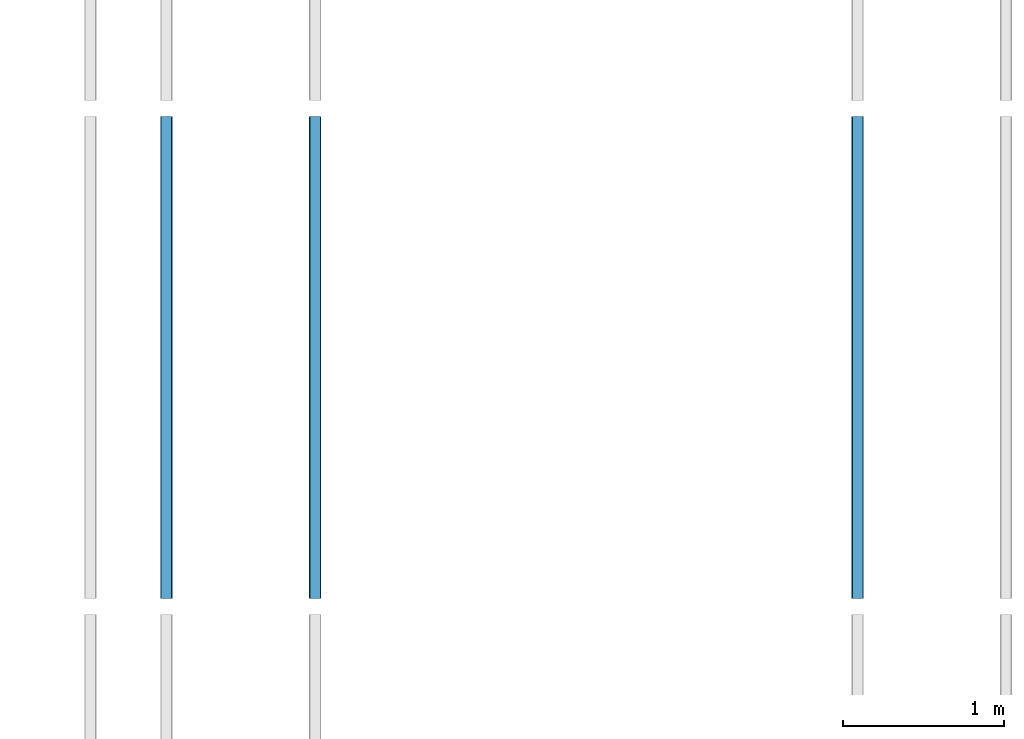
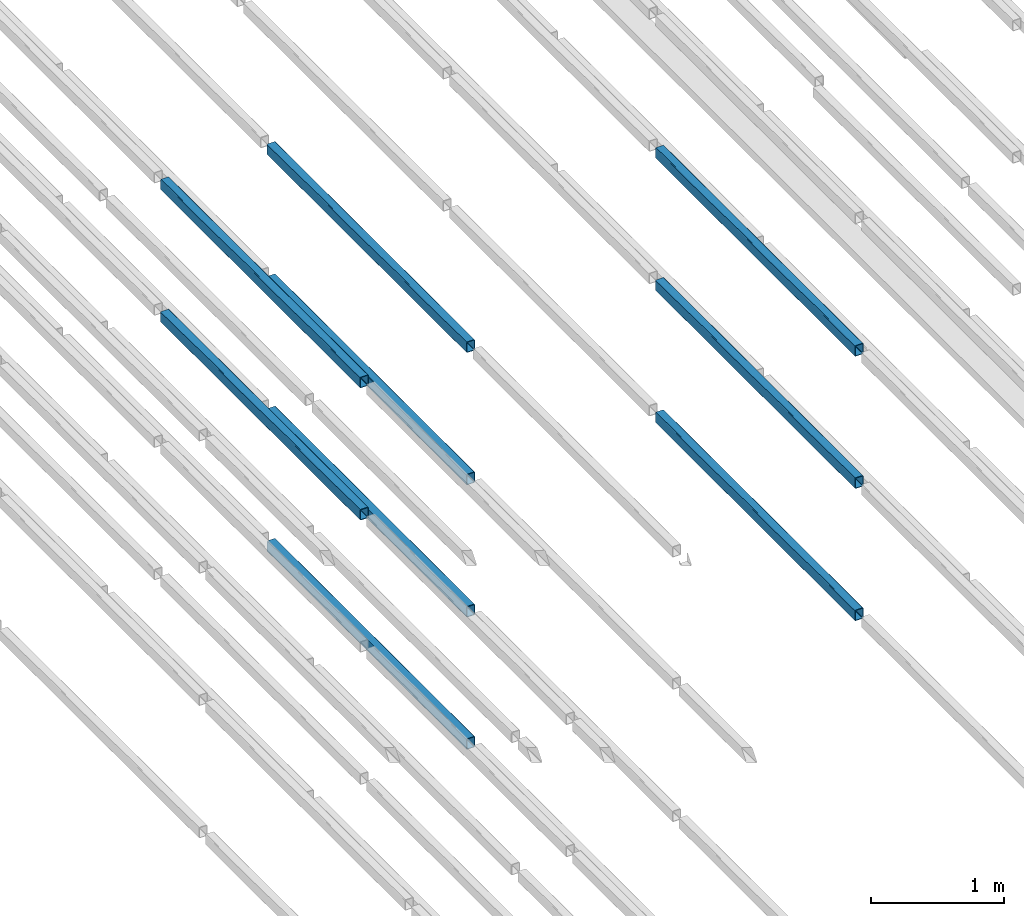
# One storey, part 87 of 290: 9 beams.
"""IFC2X3 building model written with IfcOpenShell, lengths in metres."""

from ifc_helpers import new_model, entity, si_unit, converted_unit, derived_unit, direction, frame, frame_2d, origin, place, context, subcontext, project, spatial, polyline, circle_curve, parameter, trimmed, segment, composite_curve, outline, extrude, material, type_object, element, save


model = new_model("IFC2X3")

# Units and contexts
model_context = context("Model", 3, precision=1e-05, world=origin(), true_north=direction((6.12303176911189e-17, 1.0)))
body_context = subcontext(model_context, "Body", "Model", "MODEL_VIEW")
ifc_project = project(units=[si_unit("LENGTHUNIT", "METRE"), si_unit("AREAUNIT", "SQUARE_METRE"), si_unit("VOLUMEUNIT", "CUBIC_METRE"), converted_unit("PLANEANGLEUNIT", "DEGREE", entity("IfcRatioMeasure", 0.0174532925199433), si_unit("PLANEANGLEUNIT", "RADIAN"), dimensions=[0, 0, 0, 0, 0, 0, 0]), si_unit("MASSUNIT", "GRAM", prefix="KILO"), derived_unit("MASSDENSITYUNIT", [(si_unit("MASSUNIT", "GRAM", prefix="KILO"), 1), (si_unit("LENGTHUNIT", "METRE"), -3)]), derived_unit("MOMENTOFINERTIAUNIT", [(si_unit("LENGTHUNIT", "METRE"), 4)]), si_unit("TIMEUNIT", "SECOND"), si_unit("FREQUENCYUNIT", "HERTZ"), si_unit("THERMODYNAMICTEMPERATUREUNIT", "DEGREE_CELSIUS"), derived_unit("THERMALTRANSMITTANCEUNIT", [(si_unit("MASSUNIT", "GRAM", prefix="KILO"), 1), (si_unit("THERMODYNAMICTEMPERATUREUNIT", "KELVIN"), -1), (si_unit("TIMEUNIT", "SECOND"), -3)]), derived_unit("VOLUMETRICFLOWRATEUNIT", [(si_unit("LENGTHUNIT", "METRE"), 3), (si_unit("TIMEUNIT", "SECOND"), -1)]), si_unit("ELECTRICCURRENTUNIT", "AMPERE"), si_unit("ELECTRICVOLTAGEUNIT", "VOLT"), si_unit("POWERUNIT", "WATT"), si_unit("FORCEUNIT", "NEWTON", prefix="KILO"), si_unit("ILLUMINANCEUNIT", "LUX"), si_unit("LUMINOUSFLUXUNIT", "LUMEN"), si_unit("LUMINOUSINTENSITYUNIT", "CANDELA"), derived_unit("USERDEFINED", [(si_unit("MASSUNIT", "GRAM", prefix="KILO"), -1), (si_unit("LENGTHUNIT", "METRE"), -2), (si_unit("TIMEUNIT", "SECOND"), 3), (si_unit("LUMINOUSFLUXUNIT", "LUMEN"), 1)]), derived_unit("LINEARVELOCITYUNIT", [(si_unit("LENGTHUNIT", "METRE"), 1), (si_unit("TIMEUNIT", "SECOND"), -1)]), si_unit("PRESSUREUNIT", "PASCAL"), derived_unit("USERDEFINED", [(si_unit("LENGTHUNIT", "METRE"), -2), (si_unit("MASSUNIT", "GRAM", prefix="KILO"), 1), (si_unit("TIMEUNIT", "SECOND"), -2)]), derived_unit("LINEARFORCEUNIT", [(si_unit("MASSUNIT", "GRAM", prefix="KILO"), 1), (si_unit("LENGTHUNIT", "METRE"), 1), (si_unit("TIMEUNIT", "SECOND"), -2), (si_unit("LENGTHUNIT", "METRE"), -1)]), derived_unit("PLANARFORCEUNIT", [(si_unit("MASSUNIT", "GRAM", prefix="KILO"), 1), (si_unit("LENGTHUNIT", "METRE"), 1), (si_unit("TIMEUNIT", "SECOND"), -2), (si_unit("LENGTHUNIT", "METRE"), -2)])], contexts=[model_context])

# Site, building, storey
site_placement = place(None, origin())
site = spatial("IfcSite", under=ifc_project, at=site_placement, Name="Default", CompositionType="ELEMENT")
building_placement = place(site_placement, origin())
building = spatial("IfcBuilding", under=site, at=building_placement, CompositionType="ELEMENT")
storey_placement = place(building_placement, frame((0.0, 0.0, 4.0)))
storey = spatial("IfcBuildingStorey", under=building, at=storey_placement, Name="01_OG", CompositionType="ELEMENT", Elevation=4.0)

# Beams
ifc_material = material(Name="Metall - Baustahl S235 blau")
beam_type = type_object("IfcBeamType", Name="RHS Träger (EN 10219-2):RHS 100 x 75 x 5", PredefinedType="NOTDEFINED")
beam_1_placement = place(storey_placement, frame((-183.615111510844, 42.648088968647, 1.23), z_axis=(0.0, 0.0, 1.0), x_axis=(0.0, 1.0, 0.0)))
element("IfcBeam", 1, at=beam_1_placement, inside=storey, type_object=beam_type, material=ifc_material, Name="RHS Träger (EN 10219-2):RHS 100 x 75 x 5", ObjectType="RHS Träger (EN 10219-2):RHS 100 x 75 x 5", context=body_context, shape_type="SweptSolid", body=[
    extrude(outline(composite_curve([segment(trimmed(circle_curve(frame_2d((-0.0274999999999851, -0.0399999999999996), x_axis=(1.0, 0.0)), 0.01), [parameter(180.0)], [parameter(270.0)], True, "PARAMETER"), True, "CONTINUOUS"), segment(polyline([(-0.0274999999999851, -0.0499999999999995), (0.0274999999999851, -0.0499999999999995)]), True, "CONTINUOUS"), segment(trimmed(circle_curve(frame_2d((0.0274999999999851, -0.0399999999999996), x_axis=(1.0, 0.0)), 0.01), [parameter(270.0)], [parameter(5.08888749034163e-14)], True, "PARAMETER"), True, "CONTINUOUS"), segment(polyline([(0.0375000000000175, -0.0399999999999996), (0.0375000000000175, 0.0399999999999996)]), True, "CONTINUOUS"), segment(trimmed(circle_curve(frame_2d((0.0274999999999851, 0.0399999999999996), x_axis=(1.0, 0.0)), 0.01), [parameter(360.0)], [parameter(89.9999999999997)], True, "PARAMETER"), True, "CONTINUOUS"), segment(polyline([(0.0274999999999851, 0.0500000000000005), (-0.0274999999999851, 0.0500000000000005)]), True, "CONTINUOUS"), segment(trimmed(circle_curve(frame_2d((-0.0274999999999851, 0.0399999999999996), x_axis=(1.0, 0.0)), 0.01), [parameter(90.0000000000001)], [parameter(180.0)], True, "PARAMETER"), True, "CONTINUOUS"), segment(polyline([(-0.0374999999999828, 0.0399999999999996), (-0.0374999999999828, -0.0399999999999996)]), True, "CONTINUOUS")], self_intersect=False), holes=[composite_curve([segment(polyline([(0.0274999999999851, -0.0450000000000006), (-0.0274999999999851, -0.0450000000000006)]), True, "CONTINUOUS"), segment(trimmed(circle_curve(frame_2d((-0.0274999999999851, -0.0400000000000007), x_axis=(1.0, 0.0)), 0.005), [parameter(180.0)], [parameter(270.0)], True, "PARAMETER"), False, "CONTINUOUS"), segment(polyline([(-0.0325000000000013, -0.0400000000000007), (-0.0325000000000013, 0.0399999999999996)]), True, "CONTINUOUS"), segment(trimmed(circle_curve(frame_2d((-0.0274999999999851, 0.0399999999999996), x_axis=(1.0, 0.0)), 0.005), [parameter(90.0000000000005)], [parameter(180.0)], True, "PARAMETER"), False, "CONTINUOUS"), segment(polyline([(-0.0274999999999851, 0.0449999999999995), (0.0274999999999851, 0.0449999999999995)]), True, "CONTINUOUS"), segment(trimmed(circle_curve(frame_2d((0.0274999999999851, 0.0399999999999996), x_axis=(1.0, 0.0)), 0.005), [parameter(0.0)], [parameter(90.0000000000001)], True, "PARAMETER"), False, "CONTINUOUS"), segment(polyline([(0.0325000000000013, 0.0399999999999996), (0.0325000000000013, -0.0400000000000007)]), True, "CONTINUOUS"), segment(trimmed(circle_curve(frame_2d((0.0274999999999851, -0.0400000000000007), x_axis=(1.0, 0.0)), 0.005), [parameter(270.0)], [parameter(4.07110999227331e-13)], True, "PARAMETER"), False, "CONTINUOUS")], self_intersect=False)]), frame((9.99999999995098e-05, 0.0375000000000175, -0.0500000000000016), z_axis=(1.0, 0.0, 0.0), x_axis=(0.0, -1.0, 0.0)), (0.0, 0.0, 1.0), 2.99979999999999),
])
beam_2_placement = place(storey_placement, frame((-183.615111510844, 42.648088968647, 2.445), z_axis=(0.0, 0.0, 1.0), x_axis=(0.0, 1.0, 0.0)))
element("IfcBeam", 2, at=beam_2_placement, inside=storey, type_object=beam_type, material=ifc_material, Name="RHS Träger (EN 10219-2):RHS 100 x 75 x 5", ObjectType="RHS Träger (EN 10219-2):RHS 100 x 75 x 5", context=body_context, shape_type="SweptSolid", body=[
    extrude(outline(composite_curve([segment(trimmed(circle_curve(frame_2d((-0.0274999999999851, -0.0399999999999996), x_axis=(1.0, 0.0)), 0.01), [parameter(180.0)], [parameter(270.0)], True, "PARAMETER"), True, "CONTINUOUS"), segment(polyline([(-0.0274999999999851, -0.0499999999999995), (0.0274999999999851, -0.0499999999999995)]), True, "CONTINUOUS"), segment(trimmed(circle_curve(frame_2d((0.0274999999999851, -0.0399999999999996), x_axis=(1.0, 0.0)), 0.01), [parameter(270.0)], [parameter(5.08888749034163e-14)], True, "PARAMETER"), True, "CONTINUOUS"), segment(polyline([(0.0375000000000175, -0.0399999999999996), (0.0375000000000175, 0.0399999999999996)]), True, "CONTINUOUS"), segment(trimmed(circle_curve(frame_2d((0.0274999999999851, 0.0399999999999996), x_axis=(1.0, 0.0)), 0.01), [parameter(360.0)], [parameter(89.9999999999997)], True, "PARAMETER"), True, "CONTINUOUS"), segment(polyline([(0.0274999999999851, 0.0500000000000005), (-0.0274999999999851, 0.0500000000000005)]), True, "CONTINUOUS"), segment(trimmed(circle_curve(frame_2d((-0.0274999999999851, 0.0399999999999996), x_axis=(1.0, 0.0)), 0.01), [parameter(90.0000000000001)], [parameter(180.0)], True, "PARAMETER"), True, "CONTINUOUS"), segment(polyline([(-0.0374999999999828, 0.0399999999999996), (-0.0374999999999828, -0.0399999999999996)]), True, "CONTINUOUS")], self_intersect=False), holes=[composite_curve([segment(polyline([(0.0274999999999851, -0.0450000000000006), (-0.0274999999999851, -0.0450000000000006)]), True, "CONTINUOUS"), segment(trimmed(circle_curve(frame_2d((-0.0274999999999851, -0.0400000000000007), x_axis=(1.0, 0.0)), 0.005), [parameter(180.0)], [parameter(270.0)], True, "PARAMETER"), False, "CONTINUOUS"), segment(polyline([(-0.0325000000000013, -0.0400000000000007), (-0.0325000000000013, 0.0399999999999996)]), True, "CONTINUOUS"), segment(trimmed(circle_curve(frame_2d((-0.0274999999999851, 0.0399999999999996), x_axis=(1.0, 0.0)), 0.005), [parameter(90.0000000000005)], [parameter(180.0)], True, "PARAMETER"), False, "CONTINUOUS"), segment(polyline([(-0.0274999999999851, 0.0449999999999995), (0.0274999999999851, 0.0449999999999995)]), True, "CONTINUOUS"), segment(trimmed(circle_curve(frame_2d((0.0274999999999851, 0.0399999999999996), x_axis=(1.0, 0.0)), 0.005), [parameter(0.0)], [parameter(90.0000000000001)], True, "PARAMETER"), False, "CONTINUOUS"), segment(polyline([(0.0325000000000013, 0.0399999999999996), (0.0325000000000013, -0.0400000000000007)]), True, "CONTINUOUS"), segment(trimmed(circle_curve(frame_2d((0.0274999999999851, -0.0400000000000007), x_axis=(1.0, 0.0)), 0.005), [parameter(270.0)], [parameter(4.07110999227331e-13)], True, "PARAMETER"), False, "CONTINUOUS")], self_intersect=False)]), frame((9.99999999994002e-05, 0.0375000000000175, -0.0500000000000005), z_axis=(1.0, 0.0, 0.0), x_axis=(0.0, -1.0, 0.0)), (0.0, 0.0, 1.0), 2.99979999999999),
])
beam_3_placement = place(storey_placement, frame((-182.765111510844, 42.648088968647, -1.2), z_axis=(0.0, 0.0, 1.0), x_axis=(0.0, 1.0, 0.0)))
element("IfcBeam", 3, at=beam_3_placement, inside=storey, type_object=beam_type, material=ifc_material, Name="RHS Träger (EN 10219-2):RHS 100 x 75 x 5", ObjectType="RHS Träger (EN 10219-2):RHS 100 x 75 x 5", context=body_context, shape_type="SweptSolid", body=[
    extrude(outline(composite_curve([segment(polyline([(-0.0400000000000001, -0.0374999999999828), (0.0400000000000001, -0.0374999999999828)]), True, "CONTINUOUS"), segment(trimmed(circle_curve(frame_2d((0.0400000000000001, -0.0274999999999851), x_axis=(0.0, 1.0)), 0.01), [parameter(180.0)], [parameter(270.0)], True, "PARAMETER"), True, "CONTINUOUS"), segment(polyline([(0.05, -0.0274999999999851), (0.05, 0.0274999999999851)]), True, "CONTINUOUS"), segment(trimmed(circle_curve(frame_2d((0.0400000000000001, 0.0274999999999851), x_axis=(0.0, 1.0)), 0.01), [parameter(270.0)], [parameter(4.07110999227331e-13)], True, "PARAMETER"), True, "CONTINUOUS"), segment(polyline([(0.0400000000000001, 0.0375000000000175), (-0.0400000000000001, 0.0375000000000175)]), True, "CONTINUOUS"), segment(trimmed(circle_curve(frame_2d((-0.0400000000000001, 0.0274999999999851), x_axis=(0.0, 1.0)), 0.01), [parameter(360.0)], [parameter(90.0000000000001)], True, "PARAMETER"), True, "CONTINUOUS"), segment(polyline([(-0.05, 0.0274999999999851), (-0.05, -0.0274999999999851)]), True, "CONTINUOUS"), segment(trimmed(circle_curve(frame_2d((-0.0400000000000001, -0.0274999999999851), x_axis=(0.0, 1.0)), 0.01), [parameter(90.0000000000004)], [parameter(180.0)], True, "PARAMETER"), True, "CONTINUOUS")], self_intersect=False), holes=[composite_curve([segment(trimmed(circle_curve(frame_2d((-0.0400000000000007, 0.0274999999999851), x_axis=(0.0, 1.0)), 0.005), [parameter(360.0)], [parameter(89.9999999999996)], True, "PARAMETER"), False, "CONTINUOUS"), segment(polyline([(-0.0400000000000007, 0.0325000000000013), (0.039999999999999, 0.0325000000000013)]), True, "CONTINUOUS"), segment(trimmed(circle_curve(frame_2d((0.039999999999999, 0.0274999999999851), x_axis=(0.0, 1.0)), 0.005), [parameter(270.0)], [parameter(0.0)], True, "PARAMETER"), False, "CONTINUOUS"), segment(polyline([(0.044999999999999, 0.0274999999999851), (0.044999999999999, -0.0274999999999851)]), True, "CONTINUOUS"), segment(trimmed(circle_curve(frame_2d((0.039999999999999, -0.0274999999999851), x_axis=(0.0, 1.0)), 0.005), [parameter(180.0)], [parameter(269.999999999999)], True, "PARAMETER"), False, "CONTINUOUS"), segment(polyline([(0.039999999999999, -0.0325000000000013), (-0.0400000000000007, -0.0325000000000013)]), True, "CONTINUOUS"), segment(trimmed(circle_curve(frame_2d((-0.0400000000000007, -0.0274999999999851), x_axis=(0.0, 1.0)), 0.005), [parameter(90.0000000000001)], [parameter(180.0)], True, "PARAMETER"), False, "CONTINUOUS"), segment(polyline([(-0.0450000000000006, -0.0274999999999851), (-0.0450000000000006, 0.0274999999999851)]), True, "CONTINUOUS")], self_intersect=False)]), frame((9.99999999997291e-05, -0.0375000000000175, -0.0500000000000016), z_axis=(1.0, 0.0, 0.0), x_axis=(0.0, 0.0, -1.0)), (0.0, 0.0, 1.0), 2.99979999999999),
])
beam_4_placement = place(storey_placement, frame((-182.765111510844, 42.648088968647, 0.0150000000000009), z_axis=(0.0, 0.0, 1.0), x_axis=(0.0, 1.0, 0.0)))
element("IfcBeam", 4, at=beam_4_placement, inside=storey, type_object=beam_type, material=ifc_material, Name="RHS Träger (EN 10219-2):RHS 100 x 75 x 5", ObjectType="RHS Träger (EN 10219-2):RHS 100 x 75 x 5", context=body_context, shape_type="SweptSolid", body=[
    extrude(outline(composite_curve([segment(polyline([(-0.0400000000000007, -0.0374999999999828), (0.0399999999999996, -0.0374999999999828)]), True, "CONTINUOUS"), segment(trimmed(circle_curve(frame_2d((0.0399999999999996, -0.0274999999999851), x_axis=(0.0, 1.0)), 0.01), [parameter(180.0)], [parameter(270.0)], True, "PARAMETER"), True, "CONTINUOUS"), segment(polyline([(0.0499999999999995, -0.0274999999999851), (0.0499999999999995, 0.0274999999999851)]), True, "CONTINUOUS"), segment(trimmed(circle_curve(frame_2d((0.0399999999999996, 0.0274999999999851), x_axis=(0.0, 1.0)), 0.01), [parameter(270.0)], [parameter(4.07110999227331e-13)], True, "PARAMETER"), True, "CONTINUOUS"), segment(polyline([(0.0399999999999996, 0.0375000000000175), (-0.0400000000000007, 0.0375000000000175)]), True, "CONTINUOUS"), segment(trimmed(circle_curve(frame_2d((-0.0400000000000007, 0.0274999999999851), x_axis=(0.0, 1.0)), 0.01), [parameter(360.0)], [parameter(90.0000000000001)], True, "PARAMETER"), True, "CONTINUOUS"), segment(polyline([(-0.0500000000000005, 0.0274999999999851), (-0.0500000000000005, -0.0274999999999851)]), True, "CONTINUOUS"), segment(trimmed(circle_curve(frame_2d((-0.0400000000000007, -0.0274999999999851), x_axis=(0.0, 1.0)), 0.01), [parameter(90.0000000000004)], [parameter(180.0)], True, "PARAMETER"), True, "CONTINUOUS")], self_intersect=False), holes=[composite_curve([segment(trimmed(circle_curve(frame_2d((-0.0400000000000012, 0.0274999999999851), x_axis=(0.0, 1.0)), 0.005), [parameter(360.0)], [parameter(89.9999999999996)], True, "PARAMETER"), False, "CONTINUOUS"), segment(polyline([(-0.0400000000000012, 0.0325000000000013), (0.0399999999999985, 0.0325000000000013)]), True, "CONTINUOUS"), segment(trimmed(circle_curve(frame_2d((0.0399999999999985, 0.0274999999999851), x_axis=(0.0, 1.0)), 0.005), [parameter(270.0)], [parameter(0.0)], True, "PARAMETER"), False, "CONTINUOUS"), segment(polyline([(0.0449999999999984, 0.0274999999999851), (0.0449999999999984, -0.0274999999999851)]), True, "CONTINUOUS"), segment(trimmed(circle_curve(frame_2d((0.0399999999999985, -0.0274999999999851), x_axis=(0.0, 1.0)), 0.005), [parameter(180.0)], [parameter(269.999999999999)], True, "PARAMETER"), False, "CONTINUOUS"), segment(polyline([(0.0399999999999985, -0.0325000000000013), (-0.0400000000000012, -0.0325000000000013)]), True, "CONTINUOUS"), segment(trimmed(circle_curve(frame_2d((-0.0400000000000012, -0.0274999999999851), x_axis=(0.0, 1.0)), 0.005), [parameter(90.0000000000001)], [parameter(180.0)], True, "PARAMETER"), False, "CONTINUOUS"), segment(polyline([(-0.0450000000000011, -0.0274999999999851), (-0.0450000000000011, 0.0274999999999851)]), True, "CONTINUOUS")], self_intersect=False)]), frame((9.99999999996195e-05, -0.0375000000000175, -0.0500000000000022), z_axis=(1.0, 0.0, 0.0), x_axis=(0.0, 0.0, -1.0)), (0.0, 0.0, 1.0), 2.99979999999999),
])
beam_5_placement = place(storey_placement, frame((-182.765111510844, 42.648088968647, 1.23), z_axis=(0.0, 0.0, 1.0), x_axis=(0.0, 1.0, 0.0)))
element("IfcBeam", 5, at=beam_5_placement, inside=storey, type_object=beam_type, material=ifc_material, Name="RHS Träger (EN 10219-2):RHS 100 x 75 x 5", ObjectType="RHS Träger (EN 10219-2):RHS 100 x 75 x 5", context=body_context, shape_type="SweptSolid", body=[
    extrude(outline(composite_curve([segment(polyline([(-0.0399999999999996, -0.0374999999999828), (0.0399999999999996, -0.0374999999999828)]), True, "CONTINUOUS"), segment(trimmed(circle_curve(frame_2d((0.0399999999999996, -0.0274999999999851), x_axis=(0.0, 1.0)), 0.01), [parameter(180.0)], [parameter(270.0)], True, "PARAMETER"), True, "CONTINUOUS"), segment(polyline([(0.0500000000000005, -0.0274999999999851), (0.0500000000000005, 0.0274999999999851)]), True, "CONTINUOUS"), segment(trimmed(circle_curve(frame_2d((0.0399999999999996, 0.0274999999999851), x_axis=(0.0, 1.0)), 0.01), [parameter(270.0)], [parameter(4.07110999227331e-13)], True, "PARAMETER"), True, "CONTINUOUS"), segment(polyline([(0.0399999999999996, 0.0375000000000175), (-0.0399999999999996, 0.0375000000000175)]), True, "CONTINUOUS"), segment(trimmed(circle_curve(frame_2d((-0.0399999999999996, 0.0274999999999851), x_axis=(0.0, 1.0)), 0.01), [parameter(360.0)], [parameter(90.0000000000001)], True, "PARAMETER"), True, "CONTINUOUS"), segment(polyline([(-0.0499999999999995, 0.0274999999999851), (-0.0499999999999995, -0.0274999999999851)]), True, "CONTINUOUS"), segment(trimmed(circle_curve(frame_2d((-0.0399999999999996, -0.0274999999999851), x_axis=(0.0, 1.0)), 0.01), [parameter(90.0000000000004)], [parameter(180.0)], True, "PARAMETER"), True, "CONTINUOUS")], self_intersect=False), holes=[composite_curve([segment(trimmed(circle_curve(frame_2d((-0.0400000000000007, 0.0274999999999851), x_axis=(0.0, 1.0)), 0.005), [parameter(360.0)], [parameter(89.9999999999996)], True, "PARAMETER"), False, "CONTINUOUS"), segment(polyline([(-0.0400000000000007, 0.0325000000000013), (0.0399999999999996, 0.0325000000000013)]), True, "CONTINUOUS"), segment(trimmed(circle_curve(frame_2d((0.0399999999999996, 0.0274999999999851), x_axis=(0.0, 1.0)), 0.005), [parameter(270.0)], [parameter(0.0)], True, "PARAMETER"), False, "CONTINUOUS"), segment(polyline([(0.0449999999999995, 0.0274999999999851), (0.0449999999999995, -0.0274999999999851)]), True, "CONTINUOUS"), segment(trimmed(circle_curve(frame_2d((0.0399999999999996, -0.0274999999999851), x_axis=(0.0, 1.0)), 0.005), [parameter(180.0)], [parameter(269.999999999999)], True, "PARAMETER"), False, "CONTINUOUS"), segment(polyline([(0.0399999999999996, -0.0325000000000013), (-0.0400000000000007, -0.0325000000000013)]), True, "CONTINUOUS"), segment(trimmed(circle_curve(frame_2d((-0.0400000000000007, -0.0274999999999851), x_axis=(0.0, 1.0)), 0.005), [parameter(90.0000000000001)], [parameter(180.0)], True, "PARAMETER"), False, "CONTINUOUS"), segment(polyline([(-0.0450000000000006, -0.0274999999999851), (-0.0450000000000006, 0.0274999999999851)]), True, "CONTINUOUS")], self_intersect=False)]), frame((9.99999999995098e-05, -0.0375000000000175, -0.0500000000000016), z_axis=(1.0, 0.0, 0.0), x_axis=(0.0, 0.0, -1.0)), (0.0, 0.0, 1.0), 2.99979999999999),
])
beam_6_placement = place(storey_placement, frame((-182.765111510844, 42.648088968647, 2.445), z_axis=(0.0, 0.0, 1.0), x_axis=(0.0, 1.0, 0.0)))
element("IfcBeam", 6, at=beam_6_placement, inside=storey, type_object=beam_type, material=ifc_material, Name="RHS Träger (EN 10219-2):RHS 100 x 75 x 5", ObjectType="RHS Träger (EN 10219-2):RHS 100 x 75 x 5", context=body_context, shape_type="SweptSolid", body=[
    extrude(outline(composite_curve([segment(polyline([(-0.0399999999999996, -0.0374999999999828), (0.0399999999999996, -0.0374999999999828)]), True, "CONTINUOUS"), segment(trimmed(circle_curve(frame_2d((0.0399999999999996, -0.0274999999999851), x_axis=(0.0, 1.0)), 0.01), [parameter(180.0)], [parameter(270.0)], True, "PARAMETER"), True, "CONTINUOUS"), segment(polyline([(0.0500000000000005, -0.0274999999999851), (0.0500000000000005, 0.0274999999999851)]), True, "CONTINUOUS"), segment(trimmed(circle_curve(frame_2d((0.0399999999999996, 0.0274999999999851), x_axis=(0.0, 1.0)), 0.01), [parameter(270.0)], [parameter(4.07110999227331e-13)], True, "PARAMETER"), True, "CONTINUOUS"), segment(polyline([(0.0399999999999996, 0.0375000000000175), (-0.0399999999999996, 0.0375000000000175)]), True, "CONTINUOUS"), segment(trimmed(circle_curve(frame_2d((-0.0399999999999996, 0.0274999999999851), x_axis=(0.0, 1.0)), 0.01), [parameter(360.0)], [parameter(90.0000000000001)], True, "PARAMETER"), True, "CONTINUOUS"), segment(polyline([(-0.0499999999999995, 0.0274999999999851), (-0.0499999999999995, -0.0274999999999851)]), True, "CONTINUOUS"), segment(trimmed(circle_curve(frame_2d((-0.0399999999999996, -0.0274999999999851), x_axis=(0.0, 1.0)), 0.01), [parameter(90.0000000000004)], [parameter(180.0)], True, "PARAMETER"), True, "CONTINUOUS")], self_intersect=False), holes=[composite_curve([segment(trimmed(circle_curve(frame_2d((-0.0400000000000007, 0.0274999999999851), x_axis=(0.0, 1.0)), 0.005), [parameter(360.0)], [parameter(89.9999999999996)], True, "PARAMETER"), False, "CONTINUOUS"), segment(polyline([(-0.0400000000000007, 0.0325000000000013), (0.0399999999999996, 0.0325000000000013)]), True, "CONTINUOUS"), segment(trimmed(circle_curve(frame_2d((0.0399999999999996, 0.0274999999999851), x_axis=(0.0, 1.0)), 0.005), [parameter(270.0)], [parameter(0.0)], True, "PARAMETER"), False, "CONTINUOUS"), segment(polyline([(0.0449999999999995, 0.0274999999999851), (0.0449999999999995, -0.0274999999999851)]), True, "CONTINUOUS"), segment(trimmed(circle_curve(frame_2d((0.0399999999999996, -0.0274999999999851), x_axis=(0.0, 1.0)), 0.005), [parameter(180.0)], [parameter(269.999999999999)], True, "PARAMETER"), False, "CONTINUOUS"), segment(polyline([(0.0399999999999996, -0.0325000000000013), (-0.0400000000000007, -0.0325000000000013)]), True, "CONTINUOUS"), segment(trimmed(circle_curve(frame_2d((-0.0400000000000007, -0.0274999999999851), x_axis=(0.0, 1.0)), 0.005), [parameter(90.0000000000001)], [parameter(180.0)], True, "PARAMETER"), False, "CONTINUOUS"), segment(polyline([(-0.0450000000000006, -0.0274999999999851), (-0.0450000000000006, 0.0274999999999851)]), True, "CONTINUOUS")], self_intersect=False)]), frame((9.99999999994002e-05, -0.0375000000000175, -0.0500000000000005), z_axis=(1.0, 0.0, 0.0), x_axis=(0.0, 0.0, -1.0)), (0.0, 0.0, 1.0), 2.99979999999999),
])
beam_7_placement = place(storey_placement, frame((-179.315111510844, 42.6480889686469, -1.2), z_axis=(0.0, 0.0, 1.0), x_axis=(0.0, 1.0, 0.0)))
element("IfcBeam", 7, at=beam_7_placement, inside=storey, type_object=beam_type, material=ifc_material, Name="RHS Träger (EN 10219-2):RHS 100 x 75 x 5", ObjectType="RHS Träger (EN 10219-2):RHS 100 x 75 x 5", context=body_context, shape_type="SweptSolid", body=[
    extrude(outline(composite_curve([segment(trimmed(circle_curve(frame_2d((-0.0274999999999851, -0.0400000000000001), x_axis=(1.0, 0.0)), 0.01), [parameter(180.0)], [parameter(270.0)], True, "PARAMETER"), True, "CONTINUOUS"), segment(polyline([(-0.0274999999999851, -0.05), (0.0274999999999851, -0.05)]), True, "CONTINUOUS"), segment(trimmed(circle_curve(frame_2d((0.0274999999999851, -0.0400000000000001), x_axis=(1.0, 0.0)), 0.01), [parameter(270.0)], [parameter(5.08888749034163e-14)], True, "PARAMETER"), True, "CONTINUOUS"), segment(polyline([(0.0375000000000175, -0.0400000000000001), (0.0375000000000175, 0.0400000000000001)]), True, "CONTINUOUS"), segment(trimmed(circle_curve(frame_2d((0.0274999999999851, 0.0400000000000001), x_axis=(1.0, 0.0)), 0.01), [parameter(360.0)], [parameter(89.9999999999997)], True, "PARAMETER"), True, "CONTINUOUS"), segment(polyline([(0.0274999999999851, 0.05), (-0.0274999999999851, 0.05)]), True, "CONTINUOUS"), segment(trimmed(circle_curve(frame_2d((-0.0274999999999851, 0.0400000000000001), x_axis=(1.0, 0.0)), 0.01), [parameter(90.0000000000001)], [parameter(180.0)], True, "PARAMETER"), True, "CONTINUOUS"), segment(polyline([(-0.0374999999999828, 0.0400000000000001), (-0.0374999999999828, -0.0400000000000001)]), True, "CONTINUOUS")], self_intersect=False), holes=[composite_curve([segment(polyline([(0.0274999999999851, -0.0450000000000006), (-0.0274999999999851, -0.0450000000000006)]), True, "CONTINUOUS"), segment(trimmed(circle_curve(frame_2d((-0.0274999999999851, -0.0400000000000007), x_axis=(1.0, 0.0)), 0.005), [parameter(180.0)], [parameter(270.0)], True, "PARAMETER"), False, "CONTINUOUS"), segment(polyline([(-0.0325000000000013, -0.0400000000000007), (-0.0325000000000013, 0.039999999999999)]), True, "CONTINUOUS"), segment(trimmed(circle_curve(frame_2d((-0.0274999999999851, 0.039999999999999), x_axis=(1.0, 0.0)), 0.005), [parameter(90.0000000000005)], [parameter(180.0)], True, "PARAMETER"), False, "CONTINUOUS"), segment(polyline([(-0.0274999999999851, 0.044999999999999), (0.0274999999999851, 0.044999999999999)]), True, "CONTINUOUS"), segment(trimmed(circle_curve(frame_2d((0.0274999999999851, 0.039999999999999), x_axis=(1.0, 0.0)), 0.005), [parameter(0.0)], [parameter(90.0000000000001)], True, "PARAMETER"), False, "CONTINUOUS"), segment(polyline([(0.0325000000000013, 0.039999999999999), (0.0325000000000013, -0.0400000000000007)]), True, "CONTINUOUS"), segment(trimmed(circle_curve(frame_2d((0.0274999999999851, -0.0400000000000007), x_axis=(1.0, 0.0)), 0.005), [parameter(270.0)], [parameter(4.07110999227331e-13)], True, "PARAMETER"), False, "CONTINUOUS")], self_intersect=False)]), frame((0.000100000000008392, 0.0375000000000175, -0.0500000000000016), z_axis=(1.0, 0.0, 0.0), x_axis=(0.0, -1.0, 0.0)), (0.0, 0.0, 1.0), 2.99979999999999),
])
beam_8_placement = place(storey_placement, frame((-179.315111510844, 42.6480889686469, 0.0150000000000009), z_axis=(0.0, 0.0, 1.0), x_axis=(0.0, 1.0, 0.0)))
element("IfcBeam", 8, at=beam_8_placement, inside=storey, type_object=beam_type, material=ifc_material, Name="RHS Träger (EN 10219-2):RHS 100 x 75 x 5", ObjectType="RHS Träger (EN 10219-2):RHS 100 x 75 x 5", context=body_context, shape_type="SweptSolid", body=[
    extrude(outline(composite_curve([segment(trimmed(circle_curve(frame_2d((-0.0274999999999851, -0.0400000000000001), x_axis=(1.0, 0.0)), 0.01), [parameter(180.0)], [parameter(270.0)], True, "PARAMETER"), True, "CONTINUOUS"), segment(polyline([(-0.0274999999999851, -0.05), (0.0274999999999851, -0.05)]), True, "CONTINUOUS"), segment(trimmed(circle_curve(frame_2d((0.0274999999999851, -0.0400000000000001), x_axis=(1.0, 0.0)), 0.01), [parameter(270.0)], [parameter(5.08888749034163e-14)], True, "PARAMETER"), True, "CONTINUOUS"), segment(polyline([(0.0375000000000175, -0.0400000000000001), (0.0375000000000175, 0.0400000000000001)]), True, "CONTINUOUS"), segment(trimmed(circle_curve(frame_2d((0.0274999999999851, 0.0400000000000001), x_axis=(1.0, 0.0)), 0.01), [parameter(360.0)], [parameter(89.9999999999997)], True, "PARAMETER"), True, "CONTINUOUS"), segment(polyline([(0.0274999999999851, 0.05), (-0.0274999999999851, 0.05)]), True, "CONTINUOUS"), segment(trimmed(circle_curve(frame_2d((-0.0274999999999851, 0.0400000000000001), x_axis=(1.0, 0.0)), 0.01), [parameter(90.0000000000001)], [parameter(180.0)], True, "PARAMETER"), True, "CONTINUOUS"), segment(polyline([(-0.0374999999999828, 0.0400000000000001), (-0.0374999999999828, -0.0400000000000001)]), True, "CONTINUOUS")], self_intersect=False), holes=[composite_curve([segment(polyline([(0.0274999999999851, -0.0450000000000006), (-0.0274999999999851, -0.0450000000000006)]), True, "CONTINUOUS"), segment(trimmed(circle_curve(frame_2d((-0.0274999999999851, -0.0400000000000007), x_axis=(1.0, 0.0)), 0.005), [parameter(180.0)], [parameter(270.0)], True, "PARAMETER"), False, "CONTINUOUS"), segment(polyline([(-0.0325000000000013, -0.0400000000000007), (-0.0325000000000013, 0.039999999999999)]), True, "CONTINUOUS"), segment(trimmed(circle_curve(frame_2d((-0.0274999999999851, 0.039999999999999), x_axis=(1.0, 0.0)), 0.005), [parameter(90.0000000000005)], [parameter(180.0)], True, "PARAMETER"), False, "CONTINUOUS"), segment(polyline([(-0.0274999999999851, 0.044999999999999), (0.0274999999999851, 0.044999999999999)]), True, "CONTINUOUS"), segment(trimmed(circle_curve(frame_2d((0.0274999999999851, 0.039999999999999), x_axis=(1.0, 0.0)), 0.005), [parameter(0.0)], [parameter(90.0000000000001)], True, "PARAMETER"), False, "CONTINUOUS"), segment(polyline([(0.0325000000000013, 0.039999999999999), (0.0325000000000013, -0.0400000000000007)]), True, "CONTINUOUS"), segment(trimmed(circle_curve(frame_2d((0.0274999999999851, -0.0400000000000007), x_axis=(1.0, 0.0)), 0.005), [parameter(270.0)], [parameter(4.07110999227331e-13)], True, "PARAMETER"), False, "CONTINUOUS")], self_intersect=False)]), frame((0.000100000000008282, 0.0375000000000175, -0.0500000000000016), z_axis=(1.0, 0.0, 0.0), x_axis=(0.0, -1.0, 0.0)), (0.0, 0.0, 1.0), 2.99979999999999),
])
beam_9_placement = place(storey_placement, frame((-179.315111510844, 42.6480889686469, 1.23), z_axis=(0.0, 0.0, 1.0), x_axis=(0.0, 1.0, 0.0)))
element("IfcBeam", 9, at=beam_9_placement, inside=storey, type_object=beam_type, material=ifc_material, Name="RHS Träger (EN 10219-2):RHS 100 x 75 x 5", ObjectType="RHS Träger (EN 10219-2):RHS 100 x 75 x 5", context=body_context, shape_type="SweptSolid", body=[
    extrude(outline(composite_curve([segment(trimmed(circle_curve(frame_2d((-0.0274999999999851, -0.0399999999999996), x_axis=(1.0, 0.0)), 0.01), [parameter(180.0)], [parameter(270.0)], True, "PARAMETER"), True, "CONTINUOUS"), segment(polyline([(-0.0274999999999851, -0.0499999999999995), (0.0274999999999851, -0.0499999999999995)]), True, "CONTINUOUS"), segment(trimmed(circle_curve(frame_2d((0.0274999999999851, -0.0399999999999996), x_axis=(1.0, 0.0)), 0.01), [parameter(270.0)], [parameter(5.08888749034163e-14)], True, "PARAMETER"), True, "CONTINUOUS"), segment(polyline([(0.0375000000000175, -0.0399999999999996), (0.0375000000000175, 0.0399999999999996)]), True, "CONTINUOUS"), segment(trimmed(circle_curve(frame_2d((0.0274999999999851, 0.0399999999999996), x_axis=(1.0, 0.0)), 0.01), [parameter(360.0)], [parameter(89.9999999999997)], True, "PARAMETER"), True, "CONTINUOUS"), segment(polyline([(0.0274999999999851, 0.0500000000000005), (-0.0274999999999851, 0.0500000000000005)]), True, "CONTINUOUS"), segment(trimmed(circle_curve(frame_2d((-0.0274999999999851, 0.0399999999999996), x_axis=(1.0, 0.0)), 0.01), [parameter(90.0000000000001)], [parameter(180.0)], True, "PARAMETER"), True, "CONTINUOUS"), segment(polyline([(-0.0374999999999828, 0.0399999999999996), (-0.0374999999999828, -0.0399999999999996)]), True, "CONTINUOUS")], self_intersect=False), holes=[composite_curve([segment(polyline([(0.0274999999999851, -0.0450000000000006), (-0.0274999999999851, -0.0450000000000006)]), True, "CONTINUOUS"), segment(trimmed(circle_curve(frame_2d((-0.0274999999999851, -0.0400000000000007), x_axis=(1.0, 0.0)), 0.005), [parameter(180.0)], [parameter(270.0)], True, "PARAMETER"), False, "CONTINUOUS"), segment(polyline([(-0.0325000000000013, -0.0400000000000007), (-0.0325000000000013, 0.0399999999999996)]), True, "CONTINUOUS"), segment(trimmed(circle_curve(frame_2d((-0.0274999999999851, 0.0399999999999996), x_axis=(1.0, 0.0)), 0.005), [parameter(90.0000000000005)], [parameter(180.0)], True, "PARAMETER"), False, "CONTINUOUS"), segment(polyline([(-0.0274999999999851, 0.0449999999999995), (0.0274999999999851, 0.0449999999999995)]), True, "CONTINUOUS"), segment(trimmed(circle_curve(frame_2d((0.0274999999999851, 0.0399999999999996), x_axis=(1.0, 0.0)), 0.005), [parameter(0.0)], [parameter(90.0000000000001)], True, "PARAMETER"), False, "CONTINUOUS"), segment(polyline([(0.0325000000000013, 0.0399999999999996), (0.0325000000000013, -0.0400000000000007)]), True, "CONTINUOUS"), segment(trimmed(circle_curve(frame_2d((0.0274999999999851, -0.0400000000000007), x_axis=(1.0, 0.0)), 0.005), [parameter(270.0)], [parameter(4.07110999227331e-13)], True, "PARAMETER"), False, "CONTINUOUS")], self_intersect=False)]), frame((0.000100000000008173, 0.0375000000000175, -0.0500000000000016), z_axis=(1.0, 0.0, 0.0), x_axis=(0.0, -1.0, 0.0)), (0.0, 0.0, 1.0), 2.99979999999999),
])

save(model, "model.ifc")
